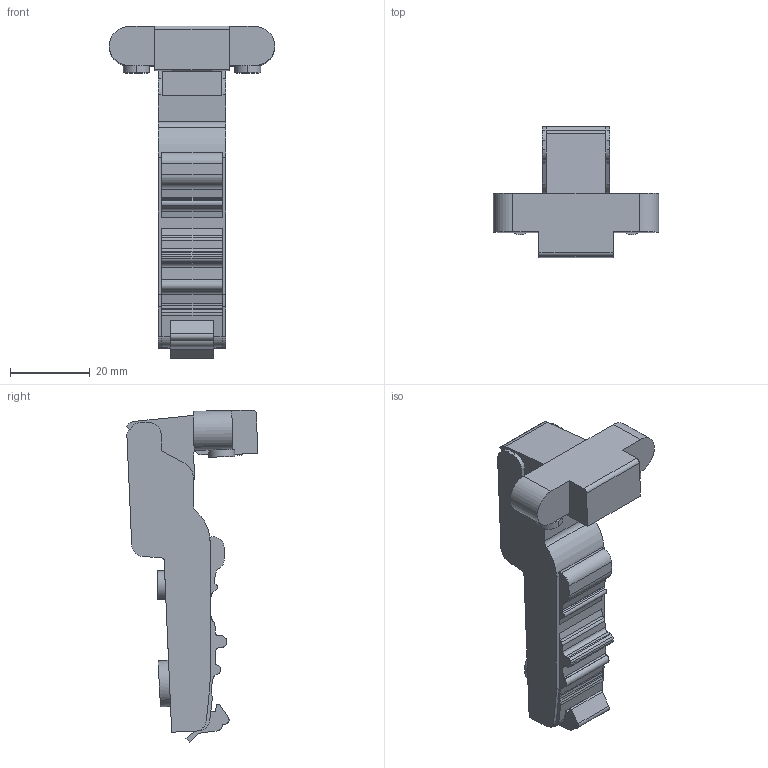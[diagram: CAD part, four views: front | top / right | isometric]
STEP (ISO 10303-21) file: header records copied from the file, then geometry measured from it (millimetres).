
FILE_DESCRIPTION (( 'STEP AP203' ), '1' );
FILE_NAME ('C82B678FA-DTC 3D close.STEP', '2024-09-09T06:34:49', ( '微软用户' ), ( '微软中国' ), 'SwSTEP 2.0', 'SolidWorks 2021', '' );
FILE_SCHEMA (( 'CONFIG_CONTROL_DESIGN' ));
Length unit declared in the file: millimetre
Products named in the file (1): C82B678FA-DTC 3D close
Bounding box: 41.6 x 33.1 x 83.45 mm (x, y, z)
Volume: 24934.3 mm3; surface area: 7952.6 mm2
Topology: 1 solids, 1 shells, 144 faces, 414 edges, 275 vertices
Faces by surface type: plane 80, cylinder 64
Entity records: 4833 total; most frequent: CARTESIAN_POINT 858, DIRECTION 834, ORIENTED_EDGE 828, EDGE_CURVE 414, AXIS2_PLACEMENT_3D 283, VERTEX_POINT 275, LINE 268, VECTOR 268
